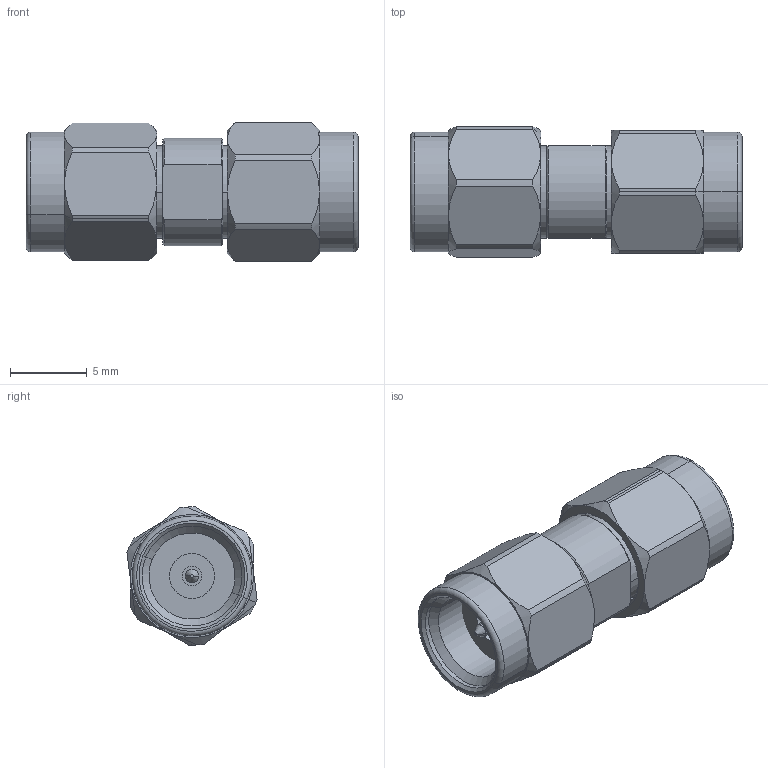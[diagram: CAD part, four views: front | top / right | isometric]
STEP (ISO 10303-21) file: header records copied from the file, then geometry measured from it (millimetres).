
FILE_DESCRIPTION (( 'STEP AP214' ), '1' );
FILE_NAME ('KM-KM50+.STEP', '2022-08-04T00:46:23', ( '' ), ( '' ), 'SwSTEP 2.0', 'SolidWorks 2014', '' );
FILE_SCHEMA (( 'AUTOMOTIVE_DESIGN' ));
Length unit declared in the file: millimetre
Products named in the file (3): KM-KM50+
Assembly tree (3 placements, depth 2):
  KM-KM50+
    KM-KM50+  x2
    KM-KM50+
Bounding box: 21.6 x 8.47 x 9 mm (x, y, z)
Volume: 781.3 mm3; surface area: 1422.1 mm2
Topology: 3 solids, 3 shells, 146 faces, 320 edges, 194 vertices
Faces by surface type: cylinder 56, cone 48, plane 38, torus 4
Entity records: 2803 total; most frequent: CARTESIAN_POINT 584, DIRECTION 473, ORIENTED_EDGE 404, AXIS2_PLACEMENT_3D 204, EDGE_CURVE 202, VERTEX_POINT 123, CIRCLE 105, EDGE_LOOP 105
